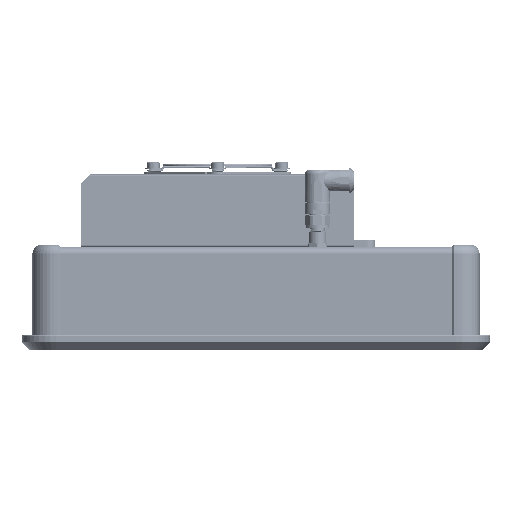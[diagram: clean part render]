
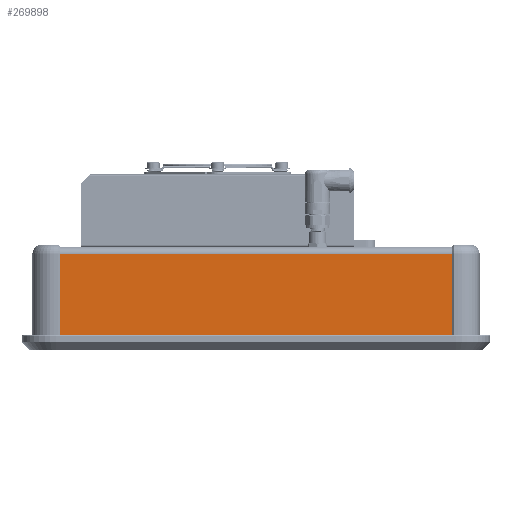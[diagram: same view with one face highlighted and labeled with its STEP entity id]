
A CAD part, left-side view. The second image highlights one B-rep face of the part: STEP entity #269898.
In plain terms, the highlighted planar face has unit normal (-1, 0, 0).
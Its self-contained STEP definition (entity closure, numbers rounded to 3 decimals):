
#11361=PLANE('',#287240);
#23250=FACE_OUTER_BOUND('',#37665,.T.);
#37665=EDGE_LOOP('',(#228562,#228563,#228564,#228565));
#73776=LINE('',#445366,#101539);
#73897=LINE('',#445770,#101660);
#73923=LINE('',#445839,#101686);
#73924=LINE('',#445841,#101687);
#101539=VECTOR('',#343136,10.);
#101660=VECTOR('',#343499,10.);
#101686=VECTOR('',#343581,10.);
#101687=VECTOR('',#343584,10.);
#125404=VERTEX_POINT('',#445364);
#125405=VERTEX_POINT('',#445365);
#125520=VERTEX_POINT('',#445768);
#125521=VERTEX_POINT('',#445769);
#160496=EDGE_CURVE('',#125404,#125405,#73776,.T.);
#160678=EDGE_CURVE('',#125520,#125521,#73897,.T.);
#160714=EDGE_CURVE('',#125521,#125404,#73923,.T.);
#160715=EDGE_CURVE('',#125520,#125405,#73924,.T.);
#228562=ORIENTED_EDGE('',*,*,#160496,.T.);
#228563=ORIENTED_EDGE('',*,*,#160715,.F.);
#228564=ORIENTED_EDGE('',*,*,#160678,.T.);
#228565=ORIENTED_EDGE('',*,*,#160714,.T.);
#269898=ADVANCED_FACE('',(#23250),#11361,.T.);
#287240=AXIS2_PLACEMENT_3D('',#445840,#343582,#343583);
#343136=DIRECTION('',(0.,0.,-1.));
#343499=DIRECTION('',(0.,0.,1.));
#343581=DIRECTION('',(0.,1.,0.));
#343582=DIRECTION('center_axis',(-1.,0.,0.));
#343583=DIRECTION('ref_axis',(0.,0.,
-1.));
#343584=DIRECTION('',(0.,1.,0.));
#445364=CARTESIAN_POINT('',(-195.45,107.9,50.6));
#445365=CARTESIAN_POINT('',(-195.45,107.9,5.6));
#445366=CARTESIAN_POINT('',(-195.45,107.9,18.026));
#445768=CARTESIAN_POINT('',(-195.45,-107.9,5.6));
#445769=CARTESIAN_POINT('',(-195.45,-107.9,50.6));
#445770=CARTESIAN_POINT('',(-195.45,-107.9,18.026));
#445839=CARTESIAN_POINT('',(-195.45,0.,50.6));
#445840=CARTESIAN_POINT('Origin',(-195.45,0.,
30.452));
#445841=CARTESIAN_POINT('',(-195.45,-118.486,5.6));
